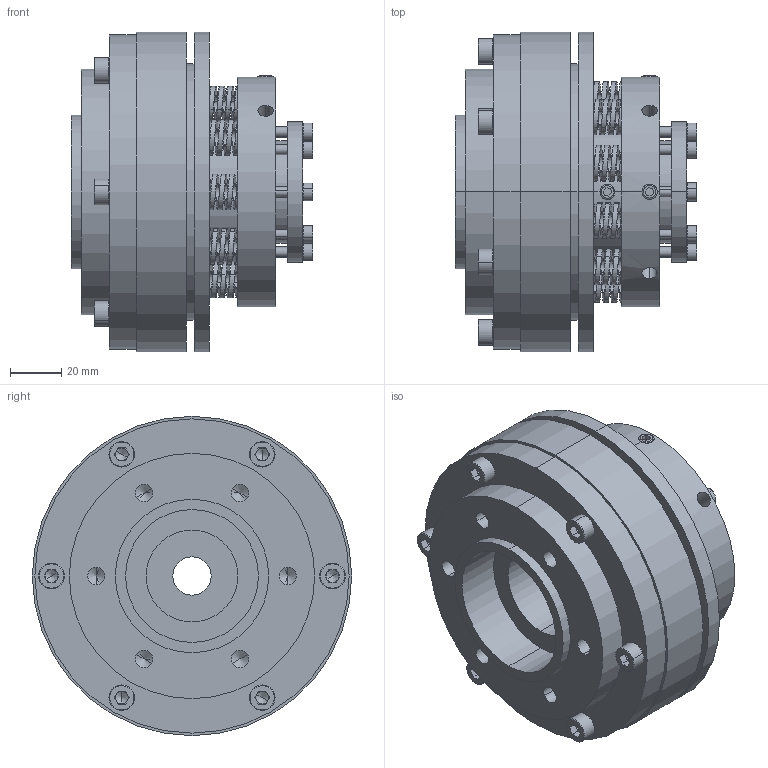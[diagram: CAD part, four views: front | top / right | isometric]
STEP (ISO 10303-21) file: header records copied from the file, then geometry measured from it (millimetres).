
FILE_DESCRIPTION (( 'STEP AP214' ), '1' );
FILE_NAME ('STL150F-P-H.STEP', '2020-03-01T04:30:20', ( '' ), ( '' ), 'SwSTEP 2.0', 'SolidWorks 2015', '' );
FILE_SCHEMA (( 'AUTOMOTIVE_DESIGN' ));
Length unit declared in the file: millimetre
Products named in the file (1): STL150F-P-H
Bounding box: 94.6 x 125 x 125 mm (x, y, z)
Volume: 614331.8 mm3; surface area: 111592.8 mm2
Topology: 1 solids, 9 shells, 975 faces, 2441 edges, 1500 vertices
Faces by surface type: cylinder 476, plane 331, torus 84, cone 64, bspline 20
Entity records: 82642 total; most frequent: CARTESIAN_POINT 49217, ORIENTED_EDGE 4786, DIRECTION 4609, EDGE_CURVE 2393, AXIS2_PLACEMENT_3D 1772, VERTEX_POINT 1500, EDGE_LOOP 1089, VECTOR 1065
